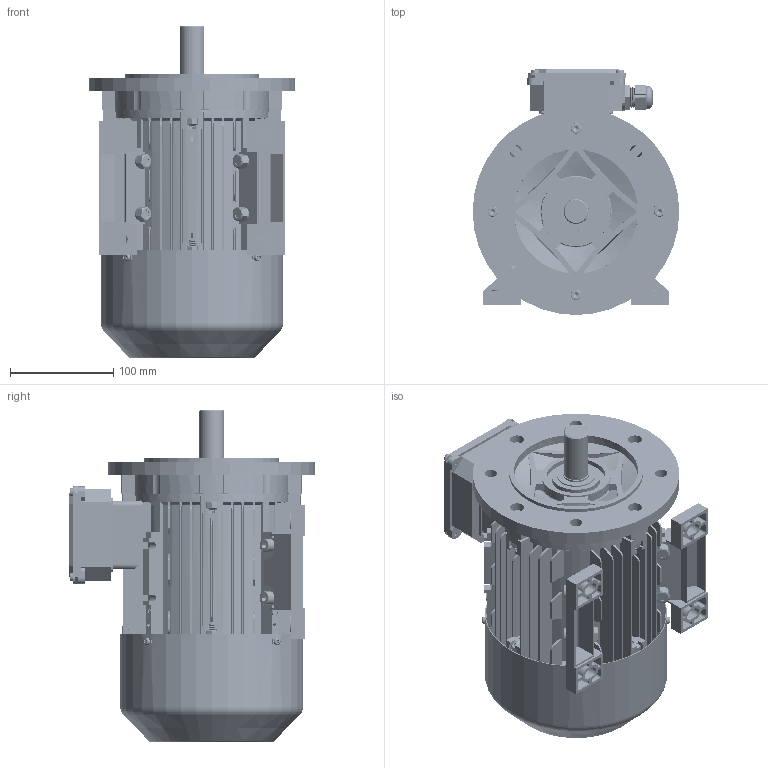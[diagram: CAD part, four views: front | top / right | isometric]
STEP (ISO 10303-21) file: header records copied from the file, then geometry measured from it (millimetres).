
FILE_DESCRIPTION (( 'STEP AP203' ), '1' );
FILE_NAME ('ME3-90SB35 3D.STEP', '2024-06-06T09:49:16', ( 'User' ), ( 'China' ), 'SwSTEP 2.0', 'SolidWorks 2018', '' );
FILE_SCHEMA (( 'CONFIG_CONTROL_DESIGN' ));
Length unit declared in the file: millimetre
Products named in the file (23): hexagon socket head cap screws gb_GB_FASTENER_SCREWS_HSHCS M8X25-S; Y2 80瑞珔; spring lock washers--normal type gb_GB_FASTENER_WASHER_SW 8; circlips for shaft--type a large gb_GB_CONNECTING_PIECE_RING_RRA 19; 8.034.09004ME2-90S儂褲; hex nuts, style 2-grades ab gb_GB_HEXAGON_TYPE13 M8 Normal Style-C; cross recessed cheese head screws gb_GB_CROSS_SCREWS_TYPE2 M5X8-8  H type-N; deep groove ball bearings gb_Rolling bearings 6205 GB 276-94; 蚐猾37X25X7; hexagon socket head cap screws gb_GB_FASTENER_SCREWS_HSHCS M6X35-S; 8.200.09005蛌粣ME3-90; spring lock washers--normal type gb_GB_FASTENER_WASHER_SW 6; hexagon nuts grade c gb_GB_FASTENER_NUT_SNC1 M6-S; MS63-71諉盄碟菁釱; 8.014.09013 ME2 90B5; 8.306.09004ME2-90瑞欶; MS63-71諉盄碟裔; 黑芛20X1.5; cross recessed cheese head screws gb_GB_CROSS_SCREWS_TYPE2 M4X6-6  H type-N; 蹟杶郋M20X1.5; ME3-90SB35  3D; 8.046.09004ME2-90S菁褐; 蹟簸M20X1.5
Assembly tree (58 placements, depth 2):
  ME3-90SB35  3D
    8.034.09004ME2-90S儂褲
    deep groove ball bearings gb_Rolling bearings 6205 GB 276-94  x2
    8.200.09005蛌粣ME3-90
    MS63-71諉盄碟菁釱
    MS63-71諉盄碟裔
    蹟杶郋M20X1.5
    蹟簸M20X1.5
    Y2 80瑞珔
    circlips for shaft--type a large gb_GB_CONNECTING_PIECE_RING_RRA 19
    cross recessed cheese head screws gb_GB_CROSS_SCREWS_TYPE2 M5X8-8  H type-N  x4
    hexagon socket head cap screws gb_GB_FASTENER_SCREWS_HSHCS M6X35-S  x10
    hexagon nuts grade c gb_GB_FASTENER_NUT_SNC1 M6-S  x8
    8.306.09004ME2-90瑞欶
    cross recessed cheese head screws gb_GB_CROSS_SCREWS_TYPE2 M4X6-6  H type-N  x4
    8.046.09004ME2-90S菁褐  x2
    hexagon socket head cap screws gb_GB_FASTENER_SCREWS_HSHCS M8X25-S  x4
    spring lock washers--normal type gb_GB_FASTENER_WASHER_SW 8  x4
    hex nuts, style 2-grades ab gb_GB_HEXAGON_TYPE13 M8 Normal Style-C  x4
    蚐猾37X25X7
    spring lock washers--normal type gb_GB_FASTENER_WASHER_SW 6  x4
    8.014.09013 ME2 90B5
    黑芛20X1.5
Bounding box: 200 x 238 x 321.21 mm (x, y, z)
Volume: 1218878.9 mm3; surface area: 811592 mm2
Topology: 74 solids, 74 shells, 7841 faces, 19268 edges, 11520 vertices
Faces by surface type: plane 2743, cone 2606, cylinder 2059, torus 217, bspline 152, sphere 64
Entity records: 145578 total; most frequent: CARTESIAN_POINT 45634, ORIENTED_EDGE 21260, DIRECTION 18609, EDGE_CURVE 10630, VERTEX_POINT 6841, LINE 6323, VECTOR 6323, AXIS2_PLACEMENT_3D 6143
